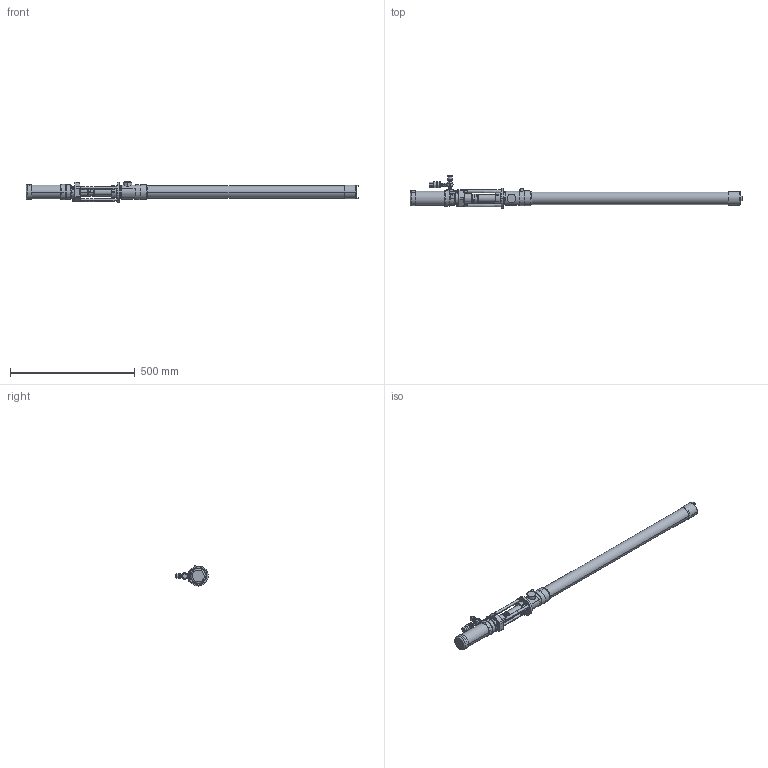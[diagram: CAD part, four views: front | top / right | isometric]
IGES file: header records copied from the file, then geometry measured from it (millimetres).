
Start section:  PTC IGES file: 226953-en-zac.igs
Global section: file name: 226953-en-zac.igs; native system: Creo Parametric by PTC Inc.; preprocessor: 2019030; author: qusrh3; organization: Unknown; date: 20191231.155519; units: inch
Bounding box: 1328.52 x 130.59 x 80.08 mm (x, y, z)
Surface area: 352635 mm2 (no closed solid volume)
Topology: 0 solids, 0 shells, 462 faces, 2086 edges, 2086 vertices
Faces by surface type: revolution 290, bspline 172
